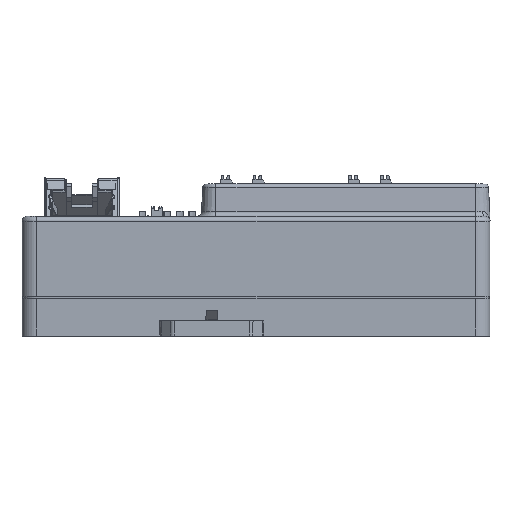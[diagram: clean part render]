
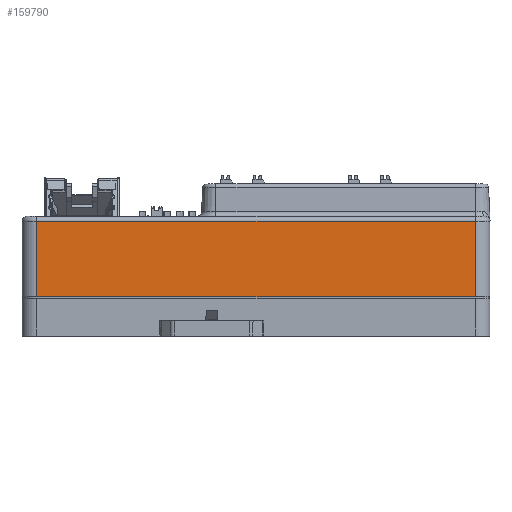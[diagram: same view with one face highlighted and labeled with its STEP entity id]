
A CAD part, top view. The second image highlights one B-rep face of the part: STEP entity #159790.
In plain terms, the highlighted planar face has unit normal (0, 0, 1).
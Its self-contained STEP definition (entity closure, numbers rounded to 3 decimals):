
#9858=DIRECTION('',(0.,1.,0.));
#9859=VECTOR('',#9858,15.4);
#9860=CARTESIAN_POINT('',(44.65,1.,32.5));
#9861=LINE('',#9860,#9859);
#9862=DIRECTION('',(-1.,0.,0.));
#9863=VECTOR('',#9862,89.3);
#9864=CARTESIAN_POINT('',(44.65,1.,32.5));
#9865=LINE('',#9864,#9863);
#9866=DIRECTION('',(-1.,0.,0.));
#9867=VECTOR('',#9866,89.3);
#9868=CARTESIAN_POINT('',(44.65,16.4,32.5));
#9869=LINE('',#9868,#9867);
#9889=DIRECTION('',(0.,-1.,0.));
#9890=VECTOR('',#9889,15.4);
#9891=CARTESIAN_POINT('',(-44.65,16.4,32.5));
#9892=LINE('',#9891,#9890);
#119782=CARTESIAN_POINT('',(-44.65,1.,32.5));
#119783=VERTEX_POINT('',#119782);
#119784=CARTESIAN_POINT('',(44.65,1.,32.5));
#119785=VERTEX_POINT('',#119784);
#119978=CARTESIAN_POINT('',(44.65,16.4,32.5));
#119979=VERTEX_POINT('',#119978);
#119980=CARTESIAN_POINT('',(-44.65,16.4,32.5));
#119981=VERTEX_POINT('',#119980);
#159777=CARTESIAN_POINT('',(-47.65,0.,32.5));
#159778=DIRECTION('',(0.,0.,1.));
#159779=DIRECTION('',(1.,0.,0.));
#159780=AXIS2_PLACEMENT_3D('',#159777,#159778,#159779);
#159781=PLANE('',#159780);
#159783=ORIENTED_EDGE('',*,*,#159782,.F.);
#159784=ORIENTED_EDGE('',*,*,#159772,.F.);
#159785=ORIENTED_EDGE('',*,*,#159079,.T.);
#159787=ORIENTED_EDGE('',*,*,#159786,.F.);
#159788=EDGE_LOOP('',(#159783,#159784,#159785,#159787));
#159789=FACE_OUTER_BOUND('',#159788,.F.);
#159790=ADVANCED_FACE('',(#159789),#159781,.T.);
#159079=EDGE_CURVE('',#119785,#119783,#9865,.T.);
#159772=EDGE_CURVE('',#119785,#119979,#9861,.T.);
#159782=EDGE_CURVE('',#119979,#119981,#9869,.T.);
#159786=EDGE_CURVE('',#119981,#119783,#9892,.T.);
